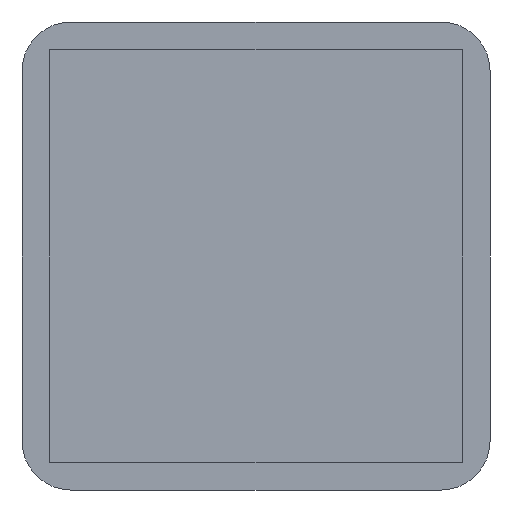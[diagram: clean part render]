
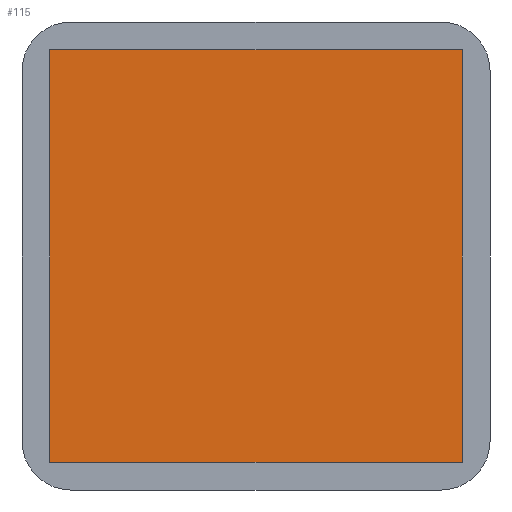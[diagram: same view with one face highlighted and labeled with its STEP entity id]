
A CAD part, front view. The second image highlights one B-rep face of the part: STEP entity #115.
In plain terms, the highlighted planar face has unit normal (0, -1, 0).
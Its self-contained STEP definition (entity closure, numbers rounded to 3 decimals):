
#36 = EDGE_CURVE ( 'NONE', #122, #401, #929, .T. ) ;
#60 = ORIENTED_EDGE ( 'NONE', *, *, #754, .F. ) ;
#64 = DIRECTION ( 'NONE',  ( 0., 1., 0. ) ) ;
#82 = LINE ( 'NONE', #2088, #1929 ) ;
#115 = ADVANCED_FACE ( 'NONE', ( #1022 ), #488, .F. ) ;
#122 = VERTEX_POINT ( 'NONE', #630 ) ;
#157 = DIRECTION ( 'NONE',  ( 0., 0., -1. ) ) ;
#401 = VERTEX_POINT ( 'NONE', #1617 ) ;
#451 = CARTESIAN_POINT ( 'NONE',  ( -3.413, -13.936, -0.275 ) ) ;
#482 = EDGE_LOOP ( 'NONE', ( #60, #681, #528, #543 ) ) ;
#488 = PLANE ( 'NONE',  #1162 ) ;
#528 = ORIENTED_EDGE ( 'NONE', *, *, #36, .F. ) ;
#543 = ORIENTED_EDGE ( 'NONE', *, *, #1335, .F. ) ;
#630 = CARTESIAN_POINT ( 'NONE',  ( 11.587, -13.936, 14.725 ) ) ;
#681 = ORIENTED_EDGE ( 'NONE', *, *, #2369, .F. ) ;
#754 = EDGE_CURVE ( 'NONE', #2279, #2084, #1910, .T. ) ;
#792 = CARTESIAN_POINT ( 'NONE',  ( -3.413, -13.936, -0.275 ) ) ;
#929 = LINE ( 'NONE', #1298, #1862 ) ;
#1022 = FACE_OUTER_BOUND ( 'NONE', #482, .T. ) ;
#1147 = DIRECTION ( 'NONE',  ( 0., 0., 1. ) ) ;
#1162 = AXIS2_PLACEMENT_3D ( 'NONE', #1731, #64, #2109 ) ;
#1298 = CARTESIAN_POINT ( 'NONE',  ( 11.587, -13.936, -0.275 ) ) ;
#1335 = EDGE_CURVE ( 'NONE', #2084, #122, #82, .T. ) ;
#1441 = CARTESIAN_POINT ( 'NONE',  ( -3.413, -13.936, 14.725 ) ) ;
#1499 = VECTOR ( 'NONE', #1561, 1000. ) ;
#1561 = DIRECTION ( 'NONE',  ( -1., 0., 0. ) ) ;
#1617 = CARTESIAN_POINT ( 'NONE',  ( 11.587, -13.936, -0.275 ) ) ;
#1716 = VECTOR ( 'NONE', #1147, 1000. ) ;
#1731 = CARTESIAN_POINT ( 'NONE',  ( -3.413, -13.936, 14.725 ) ) ;
#1841 = LINE ( 'NONE', #451, #1499 ) ;
#1862 = VECTOR ( 'NONE', #157, 1000. ) ;
#1877 = CARTESIAN_POINT ( 'NONE',  ( -3.413, -13.936, -0.275 ) ) ;
#1895 = DIRECTION ( 'NONE',  ( 1., 0., 0. ) ) ;
#1910 = LINE ( 'NONE', #792, #1716 ) ;
#1929 = VECTOR ( 'NONE', #1895, 1000. ) ;
#2084 = VERTEX_POINT ( 'NONE', #1441 ) ;
#2088 = CARTESIAN_POINT ( 'NONE',  ( -3.413, -13.936, 14.725 ) ) ;
#2109 = DIRECTION ( 'NONE',  ( 0., 0., 1. ) ) ;
#2279 = VERTEX_POINT ( 'NONE', #1877 ) ;
#2369 = EDGE_CURVE ( 'NONE', #401, #2279, #1841, .T. ) ;
